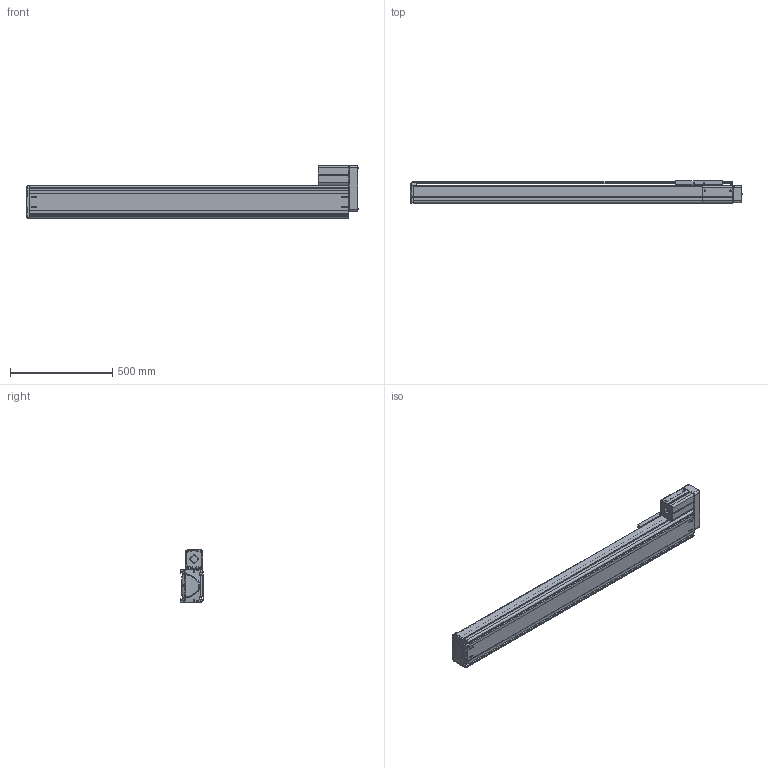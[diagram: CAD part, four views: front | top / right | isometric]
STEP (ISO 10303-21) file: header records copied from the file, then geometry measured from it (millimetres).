
FILE_DESCRIPTION((''),'2;1');
FILE_NAME('BE50F-UR-L_N-C5_IGS_PRT','2017-06-18T',(' '),(''),'PRO/ENGINEER BY PARAMETRIC TECHNOLOGY CORPORATION, 2015030','PRO/ENGINEER BY PARAMETRIC TECHNOLOGY CORPORATION, 2015030','');
FILE_SCHEMA(('CONFIG_CONTROL_DESIGN'));
Length unit declared in the file: millimetre
Products named in the file (1): BE50F-UR-L_N-C5_IGS_PRT
Bounding box: 1625.88 x 110 x 257 mm (x, y, z)
Volume: 6345109.9 mm3; surface area: 2690075.4 mm2
Topology: 7 solids, 159 shells, 2340 faces, 6442 edges, 4223 vertices
Faces by surface type: cylinder 1038, plane 1014, cone 149, torus 59, bspline 48, sphere 32
Entity records: 78292 total; most frequent: CARTESIAN_POINT 18187, DIRECTION 12503, ORIENTED_EDGE 12239, EDGE_CURVE 6396, AXIS2_PLACEMENT_3D 4482, VERTEX_POINT 4219, VECTOR 3539, LINE 3539
